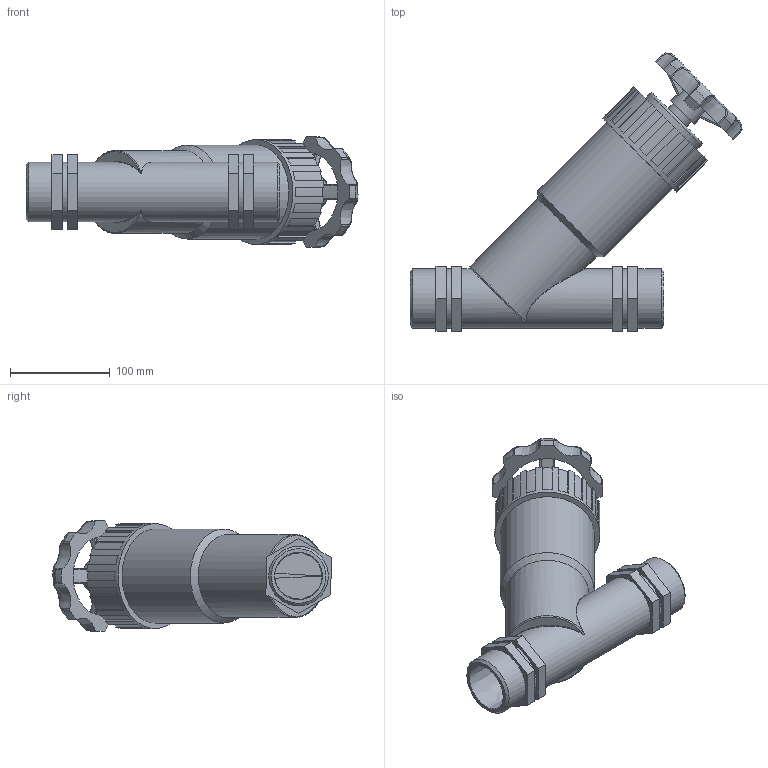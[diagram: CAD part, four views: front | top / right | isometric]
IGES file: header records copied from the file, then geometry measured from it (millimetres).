
Global section: file name: 03047220_030472200A_03049220.ipt; native system: Autodesk Inventor 2015; preprocessor: unknown; author: KIM; date: 20170619.121325; units: millimetre
Bounding box: 332.19 x 278.32 x 110.66 mm (x, y, z)
Volume: 1863355.1 mm3; surface area: 194348.8 mm2
Topology: 1 solids, 2 shells, 223 faces, 600 edges, 388 vertices
Faces by surface type: plane 110, cylinder 56, bspline 28, revolution 22, cone 7
Full cylindrical faces by diameter (mm): 26.568 x1, 33.21 x1, 59.614 x5, 73.062 x1, 83.025 x1, 94.095 x1, 105.165 x1
